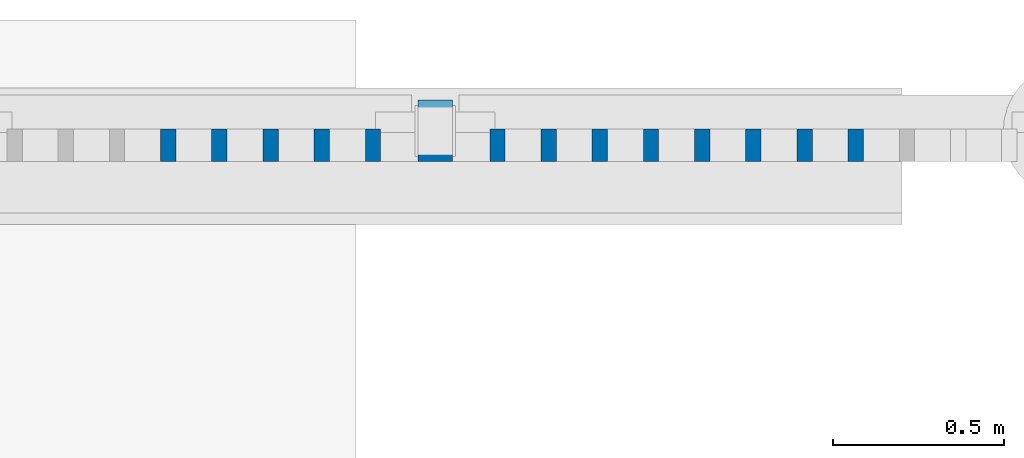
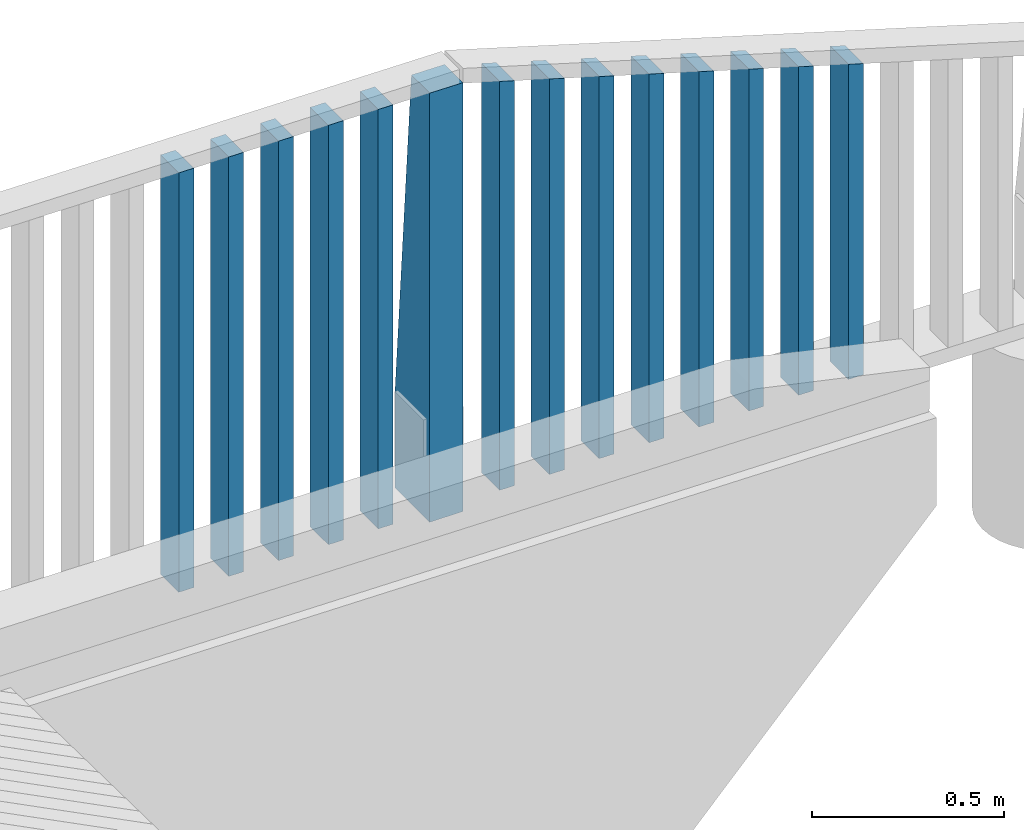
# One storey, part 8 of 47: 14 columns.
"""IFC2X3 building model written with IfcOpenShell, lengths in millimetres."""

from ifc_helpers import new_model, si_unit, frame, origin_with_axes, place, context, subcontext, project, spatial, faceted_brep, material, type_object, element, save


model = new_model("IFC2X3")

# Units and contexts
model_context = context("Model", 3, precision=1e-05, world=origin_with_axes())
body_context = subcontext(model_context, "Body", "Model", "MODEL_VIEW")
ifc_project = project(units=[si_unit("LENGTHUNIT", "METRE", prefix="MILLI"), si_unit("AREAUNIT", "SQUARE_METRE"), si_unit("VOLUMEUNIT", "CUBIC_METRE"), si_unit("MASSUNIT", "GRAM", prefix="KILO"), si_unit("TIMEUNIT", "SECOND"), si_unit("PLANEANGLEUNIT", "RADIAN"), si_unit("SOLIDANGLEUNIT", "STERADIAN"), si_unit("THERMODYNAMICTEMPERATUREUNIT", "DEGREE_CELSIUS"), si_unit("LUMINOUSINTENSITYUNIT", "LUMEN")], contexts=[model_context])

# Site, building, storey
site_placement = place(None, origin_with_axes())
site = spatial("IfcSite", under=ifc_project, at=site_placement, Name="Undefined", CompositionType="ELEMENT")
building_placement = place(site_placement, origin_with_axes())
building = spatial("IfcBuilding", under=site, at=building_placement, Name="Undefined", CompositionType="ELEMENT")
storey_placement = place(building_placement, origin_with_axes())
storey = spatial("IfcBuildingStorey", under=building, at=storey_placement, Name="Undefined", CompositionType="ELEMENT", Elevation=0.0)

# Columns
ifc_material = material(Name="TIMBER/Timber_Undefined")
column_type_1 = type_object("IfcColumnType", Name="180*100", PredefinedType="NOTDEFINED")
column_1_placement = place(storey_placement, frame((17996.9999992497, 64604.9879081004, 3729.56999999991), z_axis=(0.0, -1.0, 0.0), x_axis=(0.0, 0.0, 1.0)))
element("IfcColumn", 1, at=column_1_placement, inside=storey, type_object=column_type_1, material=ifc_material, Name="KAIDEPYLVÄS", ObjectType="180*100", context=body_context, shape_type="Brep", body=[
    faceted_brep([(-606.989999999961, 50.0, 90.0), (-606.989999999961, -50.0, 90.0), (756.859403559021, -50.0, 90.0), (758.516492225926, 50.0, 90.0), (-606.989999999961, -50.0, -90.0), (-606.989999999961, 50.0, -90.0), (-287.990000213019, -50.0, -90.0), (756.859403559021, -50.0, -5.68218152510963), (758.516492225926, 50.0, -5.54845689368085), (-287.990000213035, 50.0, -90.0)], [[[0, 1, 2, 3]], [[4, 1, 0, 5]], [[2, 1, 4, 6, 7]], [[3, 2, 7, 8]], [[5, 0, 3, 8, 9]], [[4, 5, 9, 6]], [[8, 7, 6, 9]]]),
])
column_type_2 = type_object("IfcColumnType", Name="95*45", PredefinedType="NOTDEFINED")
column_2_placement = place(storey_placement, frame((18179.5291836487, 64562.4979081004, 3121.94), z_axis=(0.0, 1.0, 0.0), x_axis=(0.0, 0.0, 1.0)))
element("IfcColumn", 2, at=column_2_placement, inside=storey, type_object=column_type_2, material=ifc_material, Name="BEAM", ObjectType="95*45", context=body_context, shape_type="Brep", body=[
    faceted_brep([(28.1773870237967, 22.5, -47.5), (28.1773870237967, 22.5, 47.5), (1316.53527806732, 22.5, 47.5), (1316.53527806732, 22.5, -47.5), (28.8093027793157, -22.5, 47.5), (1329.96289203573, -22.5, 47.5), (28.8093027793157, -22.5, -47.5), (1329.96289203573, -22.5, -47.5)], [[[0, 1, 2, 3]], [[1, 4, 5, 2]], [[4, 6, 7, 5]], [[6, 0, 3, 7]], [[5, 7, 3, 2]], [[6, 4, 1, 0]]]),
])
column_3_placement = place(storey_placement, frame((18329.5291836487, 64562.4979081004, 3121.94), z_axis=(0.0, 1.0, 0.0), x_axis=(0.0, 0.0, 1.0)))
element("IfcColumn", 3, at=column_3_placement, inside=storey, type_object=column_type_2, material=ifc_material, Name="BEAM", ObjectType="95*45", context=body_context, shape_type="Brep", body=[
    faceted_brep([(26.0710011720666, 22.5, -47.5), (26.0710011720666, 22.5, 47.5), (1271.77656483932, 22.5, 47.5), (1271.77656483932, 22.5, -47.5), (26.7029169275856, -22.5, 47.5), (1285.20417880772, -22.5, 47.5), (26.7029169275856, -22.5, -47.5), (1285.20417880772, -22.5, -47.5)], [[[0, 1, 2, 3]], [[1, 4, 5, 2]], [[4, 6, 7, 5]], [[6, 0, 3, 7]], [[5, 7, 3, 2]], [[6, 4, 1, 0]]]),
])
column_4_placement = place(storey_placement, frame((18479.5291836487, 64562.4979081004, 3121.94), z_axis=(0.0, 1.0, 0.0), x_axis=(0.0, 0.0, 1.0)))
element("IfcColumn", 4, at=column_4_placement, inside=storey, type_object=column_type_2, material=ifc_material, Name="BEAM", ObjectType="95*45", context=body_context, shape_type="Brep", body=[
    faceted_brep([(23.9646153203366, 22.5, -47.5), (23.9646153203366, 22.5, 47.5), (1227.01785161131, 22.5, 47.5), (1227.01785161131, 22.5, -47.5), (24.5965310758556, -22.5, 47.5), (1240.44546557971, -22.5, 47.5), (24.5965310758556, -22.5, -47.5), (1240.44546557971, -22.5, -47.5)], [[[0, 1, 2, 3]], [[1, 4, 5, 2]], [[4, 6, 7, 5]], [[6, 0, 3, 7]], [[5, 7, 3, 2]], [[6, 4, 1, 0]]]),
])
column_5_placement = place(storey_placement, frame((18629.5291836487, 64562.4979081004, 3121.94), z_axis=(0.0, 1.0, 0.0), x_axis=(0.0, 0.0, 1.0)))
element("IfcColumn", 5, at=column_5_placement, inside=storey, type_object=column_type_2, material=ifc_material, Name="BEAM", ObjectType="95*45", context=body_context, shape_type="Brep", body=[
    faceted_brep([(21.8582294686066, 22.5, -47.5), (21.8582294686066, 22.5, 47.5), (1182.2591383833, 22.5, 47.5), (1182.2591383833, 22.5, -47.5), (22.4901452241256, -22.5, 47.5), (1195.68675235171, -22.5, 47.5), (22.4901452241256, -22.5, -47.5), (1195.68675235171, -22.5, -47.5)], [[[0, 1, 2, 3]], [[1, 4, 5, 2]], [[4, 6, 7, 5]], [[6, 0, 3, 7]], [[5, 7, 3, 2]], [[6, 4, 1, 0]]]),
])
column_6_placement = place(storey_placement, frame((18779.5291836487, 64562.4979081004, 3121.94), z_axis=(0.0, 1.0, 0.0), x_axis=(0.0, 0.0, 1.0)))
element("IfcColumn", 6, at=column_6_placement, inside=storey, type_object=column_type_2, material=ifc_material, Name="BEAM", ObjectType="95*45", context=body_context, shape_type="Brep", body=[
    faceted_brep([(19.7518436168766, 22.5, -47.5), (19.7518436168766, 22.5, 47.5), (1137.5004251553, 22.5, 47.5), (1137.5004251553, 22.5, -47.5), (20.3837593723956, -22.5, 47.5), (1150.9280391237, -22.5, 47.5), (20.3837593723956, -22.5, -47.5), (1150.9280391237, -22.5, -47.5)], [[[0, 1, 2, 3]], [[1, 4, 5, 2]], [[4, 6, 7, 5]], [[6, 0, 3, 7]], [[5, 7, 3, 2]], [[6, 4, 1, 0]]]),
])
column_7_placement = place(storey_placement, frame((18929.5291836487, 64562.4979081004, 3121.94), z_axis=(0.0, 1.0, 0.0), x_axis=(0.0, 0.0, 1.0)))
element("IfcColumn", 7, at=column_7_placement, inside=storey, type_object=column_type_2, material=ifc_material, Name="BEAM", ObjectType="95*45", context=body_context, shape_type="Brep", body=[
    faceted_brep([(17.6454577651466, 22.5, -47.5), (17.6454577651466, 22.5, 47.5), (1092.74171192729, 22.5, 47.5), (1092.74171192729, 22.5, -47.5), (18.2773735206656, -22.5, 47.5), (1106.16932589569, -22.5, 47.5), (18.2773735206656, -22.5, -47.5), (1106.16932589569, -22.5, -47.5)], [[[0, 1, 2, 3]], [[1, 4, 5, 2]], [[4, 6, 7, 5]], [[6, 0, 3, 7]], [[5, 7, 3, 2]], [[6, 4, 1, 0]]]),
])
column_8_placement = place(storey_placement, frame((19079.5291836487, 64562.4979081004, 3121.94), z_axis=(0.0, 1.0, 0.0), x_axis=(0.0, 0.0, 1.0)))
element("IfcColumn", 8, at=column_8_placement, inside=storey, type_object=column_type_2, material=ifc_material, Name="BEAM", ObjectType="95*45", context=body_context, shape_type="Brep", body=[
    faceted_brep([(15.5390719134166, 22.5, -47.5), (15.5390719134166, 22.5, 47.5), (1047.98299869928, 22.5, 47.5), (1047.98299869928, 22.5, -47.5), (16.1709876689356, -22.5, 47.5), (1061.41061266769, -22.5, 47.5), (16.1709876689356, -22.5, -47.5), (1061.41061266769, -22.5, -47.5)], [[[0, 1, 2, 3]], [[1, 4, 5, 2]], [[4, 6, 7, 5]], [[6, 0, 3, 7]], [[5, 7, 3, 2]], [[6, 4, 1, 0]]]),
])
column_9_placement = place(storey_placement, frame((19229.5291836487, 64562.4979081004, 3121.94), z_axis=(0.0, 1.0, 0.0), x_axis=(0.0, 0.0, 1.0)))
element("IfcColumn", 9, at=column_9_placement, inside=storey, type_object=column_type_2, material=ifc_material, Name="BEAM", ObjectType="95*45", context=body_context, shape_type="Brep", body=[
    faceted_brep([(13.4326860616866, 22.5, -47.5), (13.4326860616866, 22.5, 47.5), (1003.22428547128, 22.5, 47.5), (1003.22428547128, 22.5, -47.5), (14.0646018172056, -22.5, 47.5), (1016.65189943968, -22.5, 47.5), (14.0646018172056, -22.5, -47.5), (1016.65189943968, -22.5, -47.5)], [[[0, 1, 2, 3]], [[1, 4, 5, 2]], [[4, 6, 7, 5]], [[6, 0, 3, 7]], [[5, 7, 3, 2]], [[6, 4, 1, 0]]]),
])
column_10_placement = place(storey_placement, frame((17814.4999992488, 64562.4979081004, 3119.90000000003), z_axis=(0.0, 1.0, 0.0), x_axis=(0.0, 0.0, 1.0)))
element("IfcColumn", 10, at=column_10_placement, inside=storey, type_object=column_type_2, material=ifc_material, Name="BEAM", ObjectType="95*45", context=body_context, shape_type="Brep", body=[
    faceted_brep([(35.3513416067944, 22.5, -47.5), (35.3513416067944, 22.5, 47.5), (1369.72610027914, 22.5, 47.5), (1369.72610027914, 22.5, -47.5), (35.9832863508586, -22.5, 47.5), (1370.35731729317, -22.5, 47.5), (35.9832863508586, -22.5, -47.5), (1370.35731729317, -22.5, -47.5)], [[[0, 1, 2, 3]], [[1, 4, 5, 2]], [[4, 6, 7, 5]], [[6, 0, 3, 7]], [[5, 7, 3, 2]], [[6, 4, 1, 0]]]),
])
column_11_placement = place(storey_placement, frame((17664.4999992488, 64562.4979081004, 3119.90000000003), z_axis=(0.0, 1.0, 0.0), x_axis=(0.0, 0.0, 1.0)))
element("IfcColumn", 11, at=column_11_placement, inside=storey, type_object=column_type_2, material=ifc_material, Name="BEAM", ObjectType="95*45", context=body_context, shape_type="Brep", body=[
    faceted_brep([(37.4578240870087, 22.5, -47.5), (37.4578240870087, 22.5, 47.5), (1371.83015699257, 22.5, 47.5), (1371.83015699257, 22.5, -47.5), (38.0897688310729, -22.5, 47.5), (1372.4613740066, -22.5, 47.5), (38.0897688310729, -22.5, -47.5), (1372.4613740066, -22.5, -47.5)], [[[0, 1, 2, 3]], [[1, 4, 5, 2]], [[4, 6, 7, 5]], [[6, 0, 3, 7]], [[5, 7, 3, 2]], [[6, 4, 1, 0]]]),
])
column_12_placement = place(storey_placement, frame((17514.4999992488, 64562.4979081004, 3119.90000000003), z_axis=(0.0, 1.0, 0.0), x_axis=(0.0, 0.0, 1.0)))
element("IfcColumn", 12, at=column_12_placement, inside=storey, type_object=column_type_2, material=ifc_material, Name="BEAM", ObjectType="95*45", context=body_context, shape_type="Brep", body=[
    faceted_brep([(39.564306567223, 22.5, -47.5), (39.564306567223, 22.5, 47.5), (1373.934213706, 22.5, 47.5), (1373.934213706, 22.5, -47.5), (40.1962513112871, -22.5, 47.5), (1374.56543072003, -22.5, 47.5), (40.1962513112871, -22.5, -47.5), (1374.56543072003, -22.5, -47.5)], [[[0, 1, 2, 3]], [[1, 4, 5, 2]], [[4, 6, 7, 5]], [[6, 0, 3, 7]], [[5, 7, 3, 2]], [[6, 4, 1, 0]]]),
])
column_13_placement = place(storey_placement, frame((17364.4999992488, 64562.4979081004, 3119.90000000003), z_axis=(0.0, 1.0, 0.0), x_axis=(0.0, 0.0, 1.0)))
element("IfcColumn", 13, at=column_13_placement, inside=storey, type_object=column_type_2, material=ifc_material, Name="BEAM", ObjectType="95*45", context=body_context, shape_type="Brep", body=[
    faceted_brep([(41.6707890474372, 22.5, -47.5), (41.6707890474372, 22.5, 47.5), (1376.03827041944, 22.5, 47.5), (1376.03827041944, 22.5, -47.5), (42.3027337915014, -22.5, 47.5), (1376.66948743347, -22.5, 47.5), (42.3027337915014, -22.5, -47.5), (1376.66948743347, -22.5, -47.5)], [[[0, 1, 2, 3]], [[1, 4, 5, 2]], [[4, 6, 7, 5]], [[6, 0, 3, 7]], [[5, 7, 3, 2]], [[6, 4, 1, 0]]]),
])
column_14_placement = place(storey_placement, frame((17214.4999992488, 64562.4979081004, 3119.90000000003), z_axis=(0.0, 1.0, 0.0), x_axis=(0.0, 0.0, 1.0)))
element("IfcColumn", 14, at=column_14_placement, inside=storey, type_object=column_type_2, material=ifc_material, Name="BEAM", ObjectType="95*45", context=body_context, shape_type="Brep", body=[
    faceted_brep([(43.7772715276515, 22.5, -47.5), (43.7772715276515, 22.5, 47.5), (1378.14232713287, 22.5, 47.5), (1378.14232713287, 22.5, -47.5), (44.4092162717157, -22.5, 47.5), (1378.7735441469, -22.5, 47.5), (44.4092162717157, -22.5, -47.5), (1378.7735441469, -22.5, -47.5)], [[[0, 1, 2, 3]], [[1, 4, 5, 2]], [[4, 6, 7, 5]], [[6, 0, 3, 7]], [[5, 7, 3, 2]], [[6, 4, 1, 0]]]),
])

save(model, "model.ifc")
